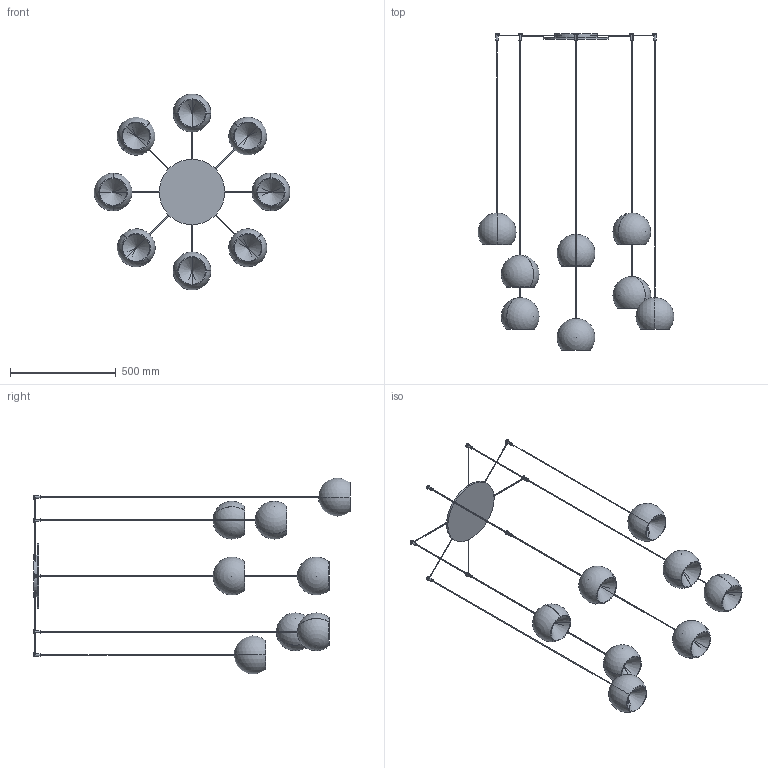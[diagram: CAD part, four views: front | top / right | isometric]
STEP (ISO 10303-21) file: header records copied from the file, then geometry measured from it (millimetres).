
FILE_DESCRIPTION (( 'STEP AP203' ), '1' );
FILE_NAME ('CHR08-00-CHERRY_8 sospensione.STEP', '2024-07-31T08:14:58', ( '' ), ( '' ), 'SwSTEP 2.0', 'SolidWorks 2022', '' );
FILE_SCHEMA (( 'CONFIG_CONTROL_DESIGN' ));
Length unit declared in the file: millimetre
Products named in the file (8): CHERRY_Lampada singola Diam.180_H=1900; CHERRY_Rosone diam.310_Cherry 8<A macchina>; CHERRY_Lampada singola Diam.180_H=1700; CHERRY_Lampada singola Diam.180_H=2000; CHERRY_Lampada singola Diam.180_H=1800; CHR08-00-CHERRY_8 sospensione; CHERRY_Lampada singola Diam.180_H=1600; CHERRY_Lampada singola Diam.180_H=1500
Assembly tree (9 placements, depth 2):
  CHR08-00-CHERRY_8 sospensione
    CHERRY_Rosone diam.310_Cherry 8<A macchina>
    CHERRY_Lampada singola Diam.180_H=2000  x2
    CHERRY_Lampada singola Diam.180_H=1600  x2
    CHERRY_Lampada singola Diam.180_H=1700
    CHERRY_Lampada singola Diam.180_H=1900
    CHERRY_Lampada singola Diam.180_H=1800
    CHERRY_Lampada singola Diam.180_H=1500
Bounding box: 928 x 1500 x 928 mm (x, y, z)
Volume: 2856814.8 mm3; surface area: 1998005.8 mm2
Topology: 41 solids, 41 shells, 304 faces, 723 edges, 454 vertices
Faces by surface type: cylinder 147, plane 93, sphere 32, cone 32
Entity records: 7537 total; most frequent: CARTESIAN_POINT 1571, DIRECTION 1173, ORIENTED_EDGE 958, AXIS2_PLACEMENT_3D 520, EDGE_CURVE 479, VERTEX_POINT 318, CIRCLE 268, EDGE_LOOP 265
